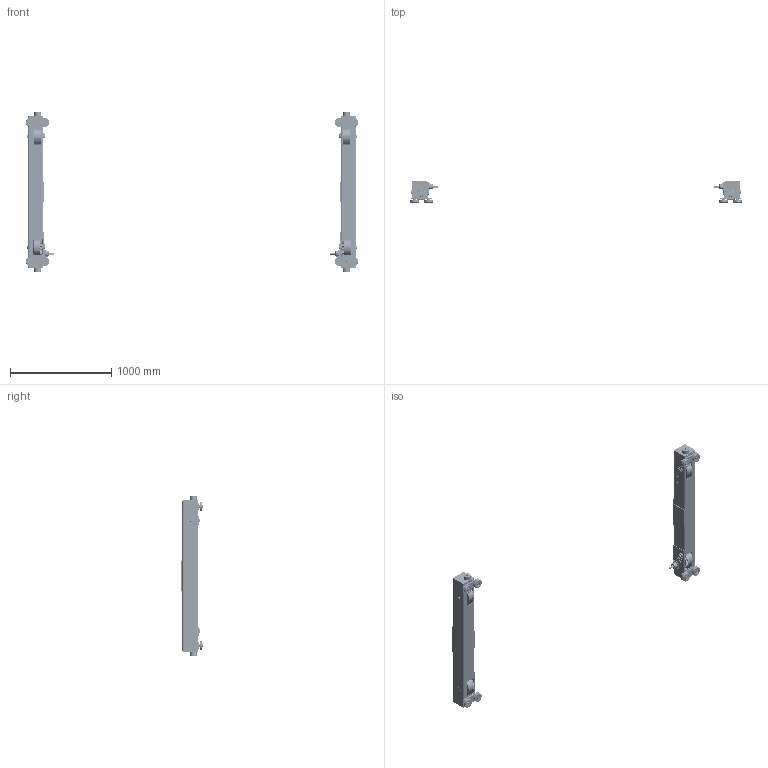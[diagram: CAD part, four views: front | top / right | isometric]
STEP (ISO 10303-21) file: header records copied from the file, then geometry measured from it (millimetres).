
FILE_DESCRIPTION (( 'STEP AP214' ), '1' );
FILE_NAME ('TG-3-0335.STEP', '2026-08-07T19:03:00', ( '' ), ( '' ), 'SwSTEP 2.0', 'SolidWorks 2026', '' );
FILE_SCHEMA (( 'AUTOMOTIVE_DESIGN' ));
Length unit declared in the file: inch
Products named in the file (50): 9000707; 9047120_9047120; 9000605; 6240809; 6240815; 62401_0245-0335 - 25# RAIL; 6240824; 9012711_9012711; T3P116030; 9093328_9093328; N6GO310V5303; 6232305; 6240811; 6240825; N6QO3101108_N6QO3101108; 6232404; 6240813; 9047125_B27.7M - 3AM1-23; N6GO310303; 9093327_9093327; 6240817X_6240817A; N6QO7201101; J1WS011-10060_GB_FASTENER_WASHER_SW 6; N6GO310306; N6QL210207; N6QO720E91013; 6240820; 9047242_9047242; N6QO720E91341; 62398_6239801; 6240810; 9000504; 62399_6239901; N6Q07201102; N6QO310E9108_N6QO3101108 DOMESTIC; N6GO310V301; N6QO720E91311; T600-600-004_58.125; 9093101_9093101; J1BE1-0602020_AS 1420 - M6 x 20-S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
Assembly tree (151 placements, depth 4):
  TG-3-0335
    62400_0245-0335 - 25# RAIL
      62398_6239801
        T600-600-004_58.125
        6240824
        6240820
      6240811  x2
      6240813
      6240810
      6240808
      6240809
      T3P116030
      6240817X_6240817A  x2
        6240805X_6240805A
        6232305
    62401_0245-0335 - 25# RAIL
      62399_6239901
        T600-600-004_58.125
        6240824
        6240820
      6240811  x2
      6240813
      T3P116030
      6240809
      6240808
      6240810
      6240817X_6240817A  x2
        6240805X_6240805A
        6232305
    N6QO3101108_N6QO3101108  x8
      N6QO310E9108_N6QO3101108 DOMESTIC
      9047252_9047252
      9000605
    6232404  x8
    9047125_B27.7M - 3AM1-23  x8
    N6QL210207  x4
    9012514_9012514  x4
    9012711_9012711  x20
    9093101_9093101  x4
    6240815  x4
    6240825  x4
    9093327_9093327  x8
    N6QO7201101  x2
      N6QO720E91311
      N6QO720E91013
      9000707
      J1WS011-10060_GB_FASTENER_WASHER_SW 6
      J1BE1-0602020_AS 1420 - M6 x 20-S
      N6QO720E91341
    N6Q07201102  x2
      N6Q0720E9102
      9000707
    N6GO310V5303  x2
      N6GO310303
      9047120_9047120
      9047242_9047242
      N6GO310306
      N6GO310V301
      9000504
    9093328_9093328  x8
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Bounding box: 3275.61 x 207.96 x 1573.42 mm (x, y, z)
Volume: 20859577.6 mm3; surface area: 5657176 mm2
Topology: 170 solids, 250 shells, 15694 faces, 40476 edges, 26174 vertices
Faces by surface type: plane 8860, cylinder 2990, cone 1828, bspline 1752, torus 264
Entity records: 149469 total; most frequent: CARTESIAN_POINT 67737, ORIENTED_EDGE 17310, DIRECTION 14029, EDGE_CURVE 8661, VERTEX_POINT 5701, AXIS2_PLACEMENT_3D 4907, VECTOR 4215, LINE 4215
